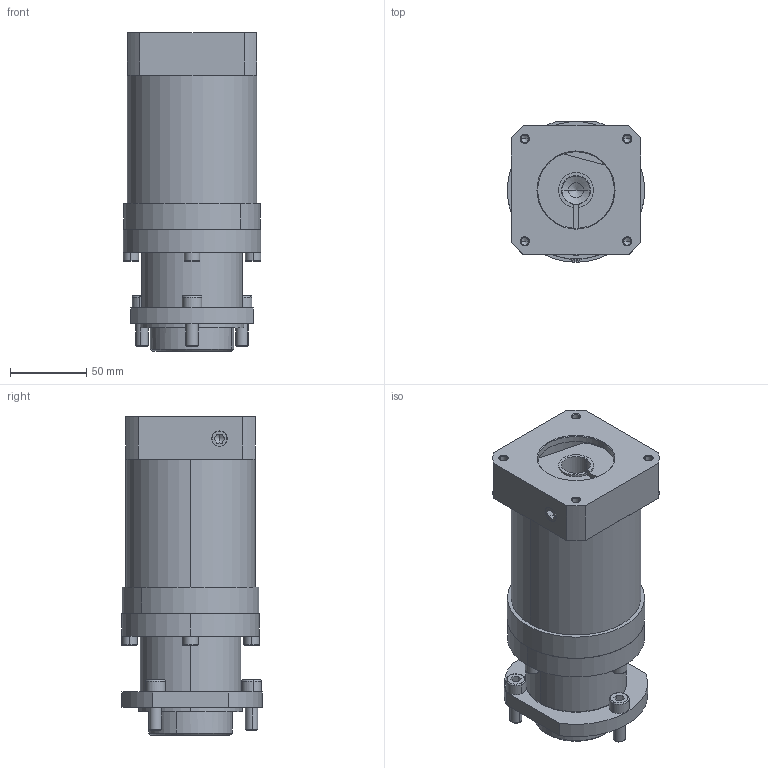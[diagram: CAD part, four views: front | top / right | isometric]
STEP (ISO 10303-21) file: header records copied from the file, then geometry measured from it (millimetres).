
FILE_DESCRIPTION (( 'STEP AP203' ), '1' );
FILE_NAME ('MAF090_MKU090_1_MPD085.STEP', '2013-09-30T13:41:36', ( 'Install' ), ( '' ), 'SwSTEP 2.0', 'SolidWorks 2013', '' );
FILE_SCHEMA (( 'CONFIG_CONTROL_DESIGN' ));
Length unit declared in the file: millimetre
Products named in the file (1): MAF090_MKU090_1_MPD085
Bounding box: 90 x 92 x 209 mm (x, y, z)
Volume: 975863 mm3; surface area: 186412.1 mm2
Topology: 19 solids, 23 shells, 774 faces, 1836 edges, 1128 vertices
Faces by surface type: cylinder 313, plane 239, cone 166, torus 56
Entity records: 23109 total; most frequent: CARTESIAN_POINT 4849, DIRECTION 4104, ORIENTED_EDGE 3568, EDGE_CURVE 1784, AXIS2_PLACEMENT_3D 1673, VERTEX_POINT 1128, CIRCLE 898, EDGE_LOOP 894
